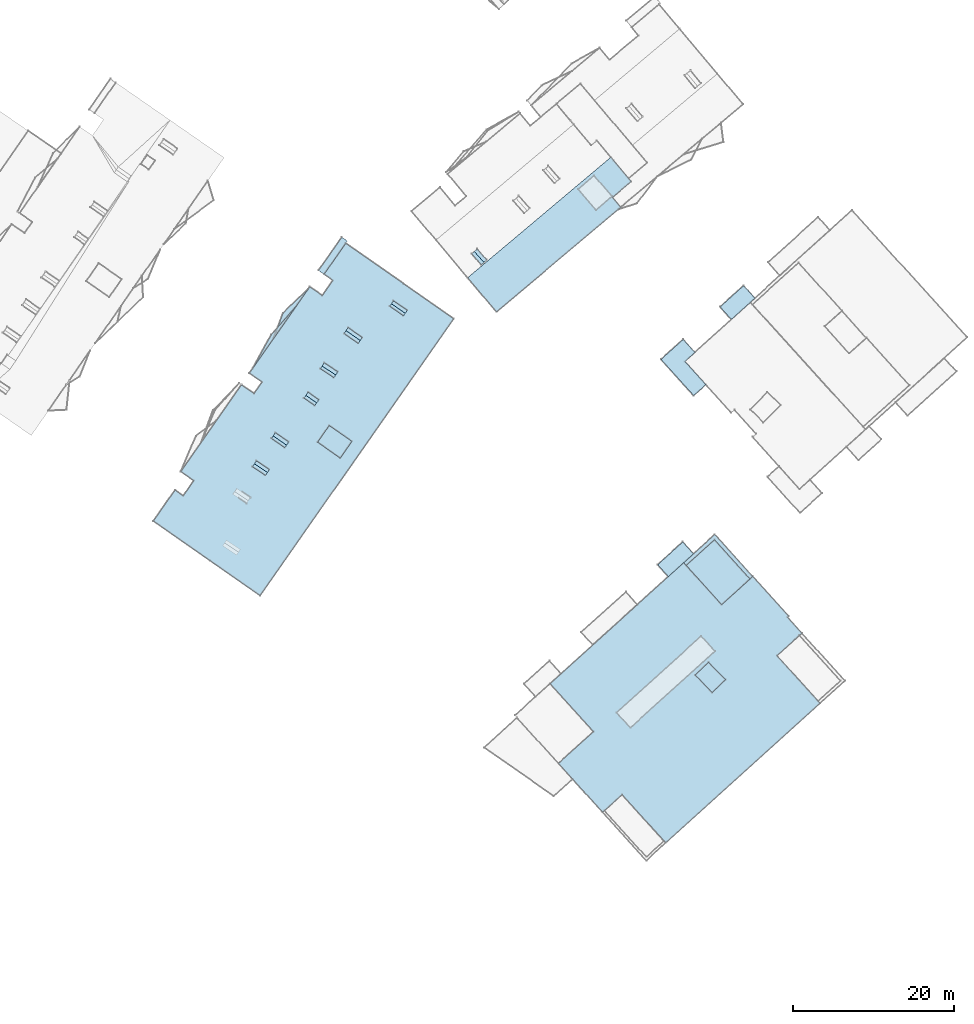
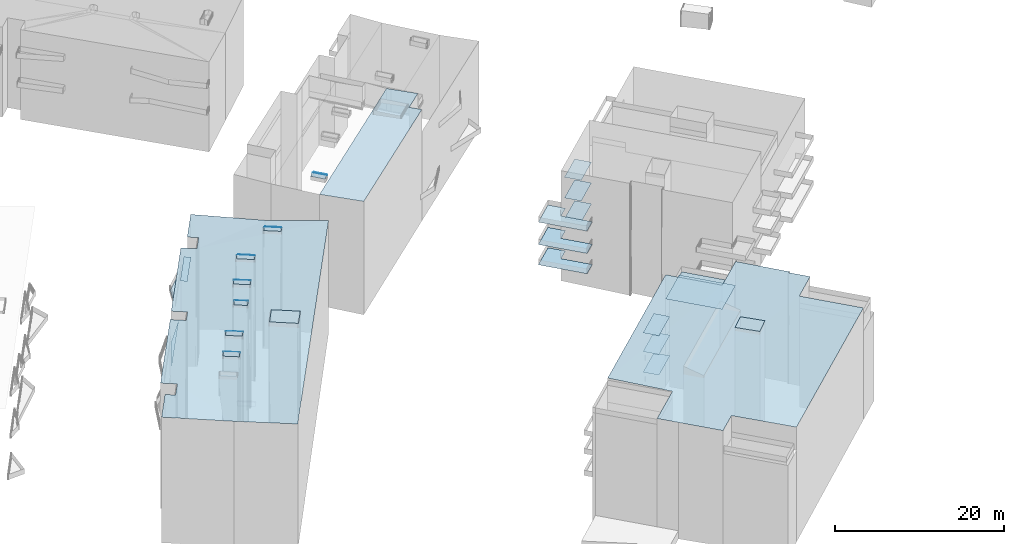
# Not in any storey, part 126 of 136: 66 roofs.
"""IFC4 building model written with IfcOpenShell, lengths in metres."""

from ifc_helpers import new_model, entity, si_unit, converted_unit, frame, origin, place, context, subcontext, project, spatial, face_set, surface_model, element, save


model = new_model("IFC4")

# Units and contexts
model_context = context("Model", 3, precision=1e-05, world=origin())
body_context = subcontext(model_context, "Body", "Model", "MODEL_VIEW")
ifc_project = project(units=[converted_unit("PLANEANGLEUNIT", "DEGREE", entity("IfcRatioMeasure", 0.0174532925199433), si_unit("PLANEANGLEUNIT", "RADIAN"), dimensions=[0, 0, 0, 0, 0, 0, 0]), si_unit("AREAUNIT", "SQUARE_METRE"), si_unit("LENGTHUNIT", "METRE")], contexts=[model_context])

# Site, building
site_placement = place(None, origin())
site = spatial("IfcSite", under=ifc_project, at=site_placement, Name="_site")
building_1_placement = place(site_placement, origin())
building_1 = spatial("IfcBuilding", under=site, at=building_1_placement, Name="_building")

# Roofs
for number, where, name in (
    (1, (0.0, 0.0, 0.0), "Roof"),
    (2, (0.0, 0.0, 0.0), "Roof"),
):
    element("IfcRoof", number, at=place(building_1_placement, frame(where)), inside=building_1, Name=name, PredefinedType="NOTDEFINED", context=body_context, shape_type="SurfaceModel", body=[
        surface_model("IfcFaceBasedSurfaceModel", [(16.8, 35.07, 54.65), (17.07, 35.46, 54.38), (15.73, 36.39, 54.38), (15.46, 36.0, 54.65)], [face_set([[[0, 1, 2, 3]]])]),
    ])
for number, where, name in (
    (3, (0.0, 0.0, 0.0), "Roof"),
    (4, (0.0, 0.0, 0.0), "Roof"),
):
    element("IfcRoof", number, at=place(building_1_placement, frame(where)), inside=building_1, Name=name, PredefinedType="NOTDEFINED", context=body_context, shape_type="SurfaceModel", body=[
        surface_model("IfcFaceBasedSurfaceModel", [(27.83, 46.23, 54.62), (28.09, 46.601, 54.45), (26.37, 47.78, 54.45), (26.12, 47.41, 54.62)], [face_set([[[0, 1, 2, 3]]])]),
    ])
for number, where, name in (
    (5, (0.0, 0.0, 0.0), "Roof"),
    (6, (0.0, 0.0, 0.0), "Roof"),
):
    element("IfcRoof", number, at=place(building_1_placement, frame(where)), inside=building_1, Name=name, PredefinedType="NOTDEFINED", context=body_context, shape_type="SurfaceModel", body=[
        surface_model("IfcFaceBasedSurfaceModel", [(9.75, 11.04, 53.93), (33.88, 45.53, 54.01), (27.68, 49.87, 53.61), (20.43, 54.94, 53.93), (17.73, 51.08, 53.93), (18.83, 50.311, 53.93), (17.51, 48.43, 53.93), (15.95, 49.521, 53.93), (8.42, 38.76, 53.93), (10.0, 37.65, 53.93), (9.0, 36.22, 53.93), (7.44, 37.311, 53.93), (-0.12, 26.5, 53.93), (1.5, 25.37, 53.93), (0.19, 23.48, 53.93), (-0.84, 24.2, 53.93), (-3.54, 20.34, 53.93), (3.55, 15.38, 53.85)], [face_set([[[0, 1, 2, 3, 4, 5, 6, 7, 8, 9, 10, 11, 12, 13, 14, 15, 16, 17]]])]),
    ])
for number, where, name in (
    (7, (0.0, 0.0, 0.0), "Roof"),
    (8, (0.0, 0.0, 0.0), "Roof"),
):
    element("IfcRoof", number, at=place(building_1_placement, frame(where)), inside=building_1, Name=name, PredefinedType="NOTDEFINED", context=body_context, shape_type="SurfaceModel", body=[
        surface_model("IfcFaceBasedSurfaceModel", [(22.22, 42.84, 54.61), (22.48, 43.21, 54.41), (20.72, 44.44, 54.41), (20.46, 44.07, 54.61)], [face_set([[[0, 1, 2, 3]]])]),
    ])
for number, where, name in (
    (9, (0.0, 0.0, 0.0), "Roof"),
    (10, (0.0, 0.0, 0.0), "Roof"),
):
    element("IfcRoof", number, at=place(building_1_placement, frame(where)), inside=building_1, Name=name, PredefinedType="NOTDEFINED", context=body_context, shape_type="SurfaceModel", body=[
        surface_model("IfcFaceBasedSurfaceModel", [(19.17, 38.54, 54.69), (19.44, 38.94, 54.42), (17.75, 40.05, 54.42), (17.49, 39.65, 54.69)], [face_set([[[0, 1, 2, 3]]])]),
    ])
for number, where, name in (
    (11, (0.0, 0.0, 0.0), "Roof"),
    (12, (0.0, 0.0, 0.0), "Roof"),
):
    element("IfcRoof", number, at=place(building_1_placement, frame(where)), inside=building_1, Name=name, PredefinedType="NOTDEFINED", context=body_context, shape_type="SurfaceModel", body=[
        surface_model("IfcFaceBasedSurfaceModel", [(13.05, 29.8, 54.72), (13.33, 30.2, 54.41), (11.67, 31.351, 54.41), (11.39, 30.95, 54.72)], [face_set([[[0, 1, 2, 3]]])]),
    ])
for number, where, name in (
    (13, (0.0, 0.0, 0.0), "Roof"),
    (14, (0.0, 0.0, 0.0), "Roof"),
):
    element("IfcRoof", number, at=place(building_1_placement, frame(where)), inside=building_1, Name=name, PredefinedType="NOTDEFINED", context=body_context, shape_type="SurfaceModel", body=[
        surface_model("IfcFaceBasedSurfaceModel", [(10.67, 26.39, 54.68), (10.92, 26.75, 54.34), (9.3, 27.851, 54.34), (9.05, 27.48, 54.68)], [face_set([[[0, 1, 2, 3]]])]),
    ])
roof_1_placement = place(building_1_placement, origin())
element("IfcRoof", 15, at=roof_1_placement, inside=building_1, Name="Roof", PredefinedType="NOTDEFINED", context=body_context, shape_type="SurfaceModel", body=[
    surface_model("IfcFaceBasedSurfaceModel", [(19.17, 38.54, 54.69), (17.49, 39.65, 54.69), (17.27, 39.32, 54.42), (18.95, 38.2, 54.42)], [face_set([[[0, 1, 2, 3]]])]),
])
for number, where, name in (
    (16, (0.0, 0.0, 0.0), "Roof"),
    (17, (0.0, 0.0, 0.0), "Roof"),
):
    element("IfcRoof", number, at=place(building_1_placement, frame(where)), inside=building_1, Name=name, PredefinedType="NOTDEFINED", context=body_context, shape_type="SurfaceModel", body=[
        surface_model("IfcFaceBasedSurfaceModel", [(27.83, 46.23, 54.62), (26.12, 47.41, 54.62), (25.9, 47.09, 54.43), (27.61, 45.91, 54.43)], [face_set([[[0, 1, 2, 3]]])]),
    ])
roof_2_placement = place(building_1_placement, origin())
element("IfcRoof", 18, at=roof_2_placement, inside=building_1, Name="Roof", PredefinedType="NOTDEFINED", context=body_context, shape_type="SurfaceModel", body=[
    surface_model("IfcFaceBasedSurfaceModel", [(22.22, 42.84, 54.61), (20.46, 44.07, 54.61), (20.21, 43.7, 54.4), (21.97, 42.47, 54.4)], [face_set([[[0, 1, 2, 3]]])]),
])
roof_3_placement = place(building_1_placement, origin())
element("IfcRoof", 19, at=roof_3_placement, inside=building_1, Name="Roof", PredefinedType="NOTDEFINED", context=body_context, shape_type="SurfaceModel", body=[
    surface_model("IfcFaceBasedSurfaceModel", [(16.8, 35.07, 54.65), (15.46, 36.0, 54.65), (15.22, 35.66, 54.34), (16.56, 34.73, 54.34)], [face_set([[[0, 1, 2, 3]]])]),
])
for number, where, name in (
    (20, (0.0, 0.0, 0.0), "Roof"),
    (21, (0.0, 0.0, 0.0), "Roof"),
):
    element("IfcRoof", number, at=place(building_1_placement, frame(where)), inside=building_1, Name=name, PredefinedType="NOTDEFINED", context=body_context, shape_type="SurfaceModel", body=[
        surface_model("IfcFaceBasedSurfaceModel", [(13.05, 29.8, 54.72), (11.39, 30.95, 54.72), (11.17, 30.63, 54.39), (12.83, 29.48, 54.39)], [face_set([[[0, 1, 2, 3]]])]),
    ])
roof_4_placement = place(building_1_placement, origin())
element("IfcRoof", 22, at=roof_4_placement, inside=building_1, Name="Roof", PredefinedType="NOTDEFINED", context=body_context, shape_type="SurfaceModel", body=[
    surface_model("IfcFaceBasedSurfaceModel", [(10.67, 26.39, 54.68), (9.05, 27.48, 54.68), (8.8, 27.11, 54.34), (10.42, 26.021, 54.34)], [face_set([[[0, 1, 2, 3]]])]),
])
for number, where, name in (
    (23, (0.0, 0.0, 0.0), "Roof"),
    (24, (0.0, 0.0, 0.0), "Roof"),
):
    element("IfcRoof", number, at=place(building_1_placement, frame(where)), inside=building_1, Name=name, PredefinedType="NOTDEFINED", context=body_context, shape_type="SurfaceModel", body=[
        surface_model("IfcFaceBasedSurfaceModel", [(19.74, 28.18, 54.61), (21.2, 30.26, 54.61), (18.37, 32.24, 54.61), (16.92, 30.16, 54.61)], [face_set([[[0, 1, 2, 3]]])]),
    ])
roof_5_placement = place(building_1_placement, origin())
element("IfcRoof", 25, at=roof_5_placement, inside=building_1, Name="Roof", PredefinedType="NOTDEFINED", context=body_context, shape_type="SurfaceModel", body=[
    surface_model("IfcFaceBasedSurfaceModel", [(10.67, 26.39, 54.68), (9.05, 27.48, 54.68), (8.8, 27.11, 54.34), (10.42, 26.021, 54.34)], [face_set([[[0, 1, 2, 3]]])]),
])
for number, where, name in (
    (26, (0.0, 0.0, 0.0), "Roof"),
    (27, (0.0, 0.0, 0.0), "Roof"),
):
    element("IfcRoof", number, at=place(building_1_placement, frame(where)), inside=building_1, Name=name, PredefinedType="NOTDEFINED", context=body_context, shape_type="SurfaceModel", body=[
        surface_model("IfcFaceBasedSurfaceModel", [(11.45, 43.09, 50.94), (15.76, 49.25, 50.94), (12.61, 46.26, 50.94)], [face_set([[[0, 1, 2]]])]),
    ])
roof_6_placement = place(building_1_placement, origin())
element("IfcRoof", 28, at=roof_6_placement, inside=building_1, Name="Roof", PredefinedType="NOTDEFINED", context=body_context, shape_type="SurfaceModel", body=[
    surface_model("IfcFaceBasedSurfaceModel", [(22.22, 42.84, 54.61), (20.46, 44.07, 54.61), (20.21, 43.7, 54.4), (21.97, 42.47, 54.4)], [face_set([[[0, 1, 2, 3]]])]),
])
roof_7_placement = place(building_1_placement, origin())
element("IfcRoof", 29, at=roof_7_placement, inside=building_1, Name="Roof", PredefinedType="NOTDEFINED", context=body_context, shape_type="SurfaceModel", body=[
    surface_model("IfcFaceBasedSurfaceModel", [(16.8, 35.07, 54.65), (15.46, 36.0, 54.65), (15.22, 35.66, 54.34), (16.56, 34.73, 54.34)], [face_set([[[0, 1, 2, 3]]])]),
])
for number, where, name in (
    (30, (0.0, 0.0, 0.0), "Roof"),
    (31, (0.0, 0.0, 0.0), "Roof"),
):
    element("IfcRoof", number, at=place(building_1_placement, frame(where)), inside=building_1, Name=name, PredefinedType="NOTDEFINED", context=body_context, shape_type="SurfaceModel", body=[
        surface_model("IfcFaceBasedSurfaceModel", [(17.04, 51.561, 47.51), (17.73, 51.08, 47.51), (20.43, 54.94, 47.51), (20.63, 55.23, 47.51), (19.94, 55.71, 47.51)], [face_set([[[0, 1, 2, 3, 4]]])]),
    ])
for number, where, name in (
    (32, (0.0, 0.0, 0.0), "Roof"),
    (33, (0.0, 0.0, 0.0), "Roof"),
):
    element("IfcRoof", number, at=place(building_1_placement, frame(where)), inside=building_1, Name=name, PredefinedType="NOTDEFINED", context=body_context, shape_type="SurfaceModel", body=[
        surface_model("IfcFaceBasedSurfaceModel", [(11.17, 43.58, 45.44), (8.82, 39.33, 45.44), (14.4, 47.3, 45.44)], [face_set([[[0, 1, 2]]])]),
    ])
roof_8_placement = place(building_1_placement, origin())
element("IfcRoof", 34, at=roof_8_placement, inside=building_1, Name="Roof", PredefinedType="NOTDEFINED", context=body_context, shape_type="SurfaceModel", body=[
    surface_model("IfcFaceBasedSurfaceModel", [(19.17, 38.54, 54.69), (17.49, 39.65, 54.69), (17.27, 39.32, 54.42), (18.95, 38.2, 54.42)], [face_set([[[0, 1, 2, 3]]])]),
])

# Building
building_2_placement = place(site_placement, origin())
building_2 = spatial("IfcBuilding", under=site, at=building_2_placement, Name="_building")

# Roofs
roof_9_placement = place(building_2_placement, origin())
element("IfcRoof", 35, at=roof_9_placement, inside=building_2, Name="Roof", PredefinedType="NOTDEFINED", context=body_context, shape_type="SurfaceModel", body=[
    surface_model("IfcFaceBasedSurfaceModel", [(37.64, 52.561, 54.94), (36.44, 53.92, 54.94), (36.12, 53.64, 54.74), (37.32, 52.271, 54.74)], [face_set([[[0, 1, 2, 3]]])]),
])
for number, where, name in (
    (36, (0.0, 0.0, 0.0), "Roof"),
    (37, (0.0, 0.0, 0.0), "Roof"),
):
    element("IfcRoof", number, at=place(building_2_placement, frame(where)), inside=building_2, Name=name, PredefinedType="NOTDEFINED", context=body_context, shape_type="SurfaceModel", body=[
        surface_model("IfcFaceBasedSurfaceModel", [(37.64, 52.561, 54.94), (38.0, 52.88, 54.79), (36.8, 54.25, 54.79), (36.44, 53.92, 54.94)], [face_set([[[0, 1, 2, 3]]])]),
    ])
roof_10_placement = place(building_2_placement, origin())
element("IfcRoof", 38, at=roof_10_placement, inside=building_2, Name="Roof", PredefinedType="NOTDEFINED", context=body_context, shape_type="SurfaceModel", body=[
    surface_model("IfcFaceBasedSurfaceModel", [(37.64, 52.561, 54.94), (36.44, 53.92, 54.94), (36.12, 53.64, 54.74), (37.32, 52.271, 54.74)], [face_set([[[0, 1, 2, 3]]])]),
])
for number, where, name in (
    (39, (0.0, 0.0, 0.0), "Roof"),
    (40, (0.0, 0.0, 0.0), "Roof"),
):
    element("IfcRoof", number, at=place(building_2_placement, frame(where)), inside=building_2, Name=name, PredefinedType="NOTDEFINED", context=body_context, shape_type="SurfaceModel", body=[
        surface_model("IfcFaceBasedSurfaceModel", [(35.62, 50.67, 54.1), (39.21, 46.4, 54.41), (54.7, 59.43, 54.41), (53.66, 60.67, 54.32), (56.01, 62.64, 54.32), (53.832, 65.231, 54.132), (53.458, 65.678, 54.1)], [face_set([[[0, 1, 2, 3, 4, 5, 6]]])]),
    ])

# Building
building_3_placement = place(site_placement, origin())
building_3 = spatial("IfcBuilding", under=site, at=building_3_placement, Name="_building")

# Roofs
for number, where, name in (
    (41, (0.0, 0.0, 0.0), "Roof"),
    (42, (0.0, 0.0, 0.0), "Roof"),
):
    element("IfcRoof", number, at=place(building_3_placement, frame(where)), inside=building_3, Name=name, PredefinedType="NOTDEFINED", context=body_context, shape_type="SurfaceModel", body=[
        surface_model("IfcFaceBasedSurfaceModel", [(68.47, 45.46, 47.79), (71.4, 48.11, 47.79), (69.99, 49.67, 47.79), (67.06, 47.021, 47.79)], [face_set([[[0, 1, 2, 3]]])]),
    ])
for number, where, name in (
    (43, (0.0, 0.0, 0.0), "Roof"),
    (44, (0.0, 0.0, 0.0), "Roof"),
):
    element("IfcRoof", number, at=place(building_3_placement, frame(where)), inside=building_3, Name=name, PredefinedType="NOTDEFINED", context=body_context, shape_type="SurfaceModel", body=[
        surface_model("IfcFaceBasedSurfaceModel", [(63.93, 41.351, 41.65), (62.46, 42.97, 41.65), (59.7, 40.48, 41.65), (63.78, 35.98, 41.65), (65.29, 37.34, 41.65), (62.68, 40.22, 41.65)], [face_set([[[0, 1, 2, 3, 4, 5]]])]),
    ])
for number, where, name in (
    (45, (0.0, 0.0, 0.0), "Roof"),
    (46, (0.0, 0.0, 0.0), "Roof"),
):
    element("IfcRoof", number, at=place(building_3_placement, frame(where)), inside=building_3, Name=name, PredefinedType="NOTDEFINED", context=body_context, shape_type="SurfaceModel", body=[
        surface_model("IfcFaceBasedSurfaceModel", [(63.93, 41.351, 44.59), (62.46, 42.97, 44.59), (59.7, 40.48, 44.59), (63.78, 35.98, 44.59), (65.29, 37.34, 44.59), (62.68, 40.22, 44.59)], [face_set([[[0, 1, 2, 3, 4, 5]]])]),
    ])
for number, where, name in (
    (47, (0.0, 0.0, 0.0), "Roof"),
    (48, (0.0, 0.0, 0.0), "Roof"),
):
    element("IfcRoof", number, at=place(building_3_placement, frame(where)), inside=building_3, Name=name, PredefinedType="NOTDEFINED", context=body_context, shape_type="SurfaceModel", body=[
        surface_model("IfcFaceBasedSurfaceModel", [(68.47, 45.46, 44.79), (71.4, 48.11, 44.79), (69.99, 49.67, 44.79), (67.06, 47.021, 44.79)], [face_set([[[0, 1, 2, 3]]])]),
    ])
for number, where, name in (
    (49, (0.0, 0.0, 0.0), "Roof"),
    (50, (0.0, 0.0, 0.0), "Roof"),
):
    element("IfcRoof", number, at=place(building_3_placement, frame(where)), inside=building_3, Name=name, PredefinedType="NOTDEFINED", context=body_context, shape_type="SurfaceModel", body=[
        surface_model("IfcFaceBasedSurfaceModel", [(63.93, 41.351, 47.83), (62.46, 42.97, 47.83), (59.7, 40.48, 47.83), (63.78, 35.98, 47.83), (65.29, 37.34, 47.83), (62.68, 40.22, 47.83)], [face_set([[[0, 1, 2, 3, 4, 5]]])]),
    ])
for number, where, name in (
    (51, (0.0, 0.0, 0.0), "Roof"),
    (52, (0.0, 0.0, 0.0), "Roof"),
):
    element("IfcRoof", number, at=place(building_3_placement, frame(where)), inside=building_3, Name=name, PredefinedType="NOTDEFINED", context=body_context, shape_type="SurfaceModel", body=[
        surface_model("IfcFaceBasedSurfaceModel", [(68.47, 45.46, 41.76), (71.4, 48.11, 41.76), (69.99, 49.67, 41.76), (67.06, 47.021, 41.76)], [face_set([[[0, 1, 2, 3]]])]),
    ])

# Building
building_4_placement = place(site_placement, origin())
building_4 = spatial("IfcBuilding", under=site, at=building_4_placement, Name="_building")

# Roofs
for number, where, name in (
    (53, (0.0, 0.0, 0.0), "Roof"),
    (54, (0.0, 0.0, 0.0), "Roof"),
):
    element("IfcRoof", number, at=place(building_4_placement, frame(where)), inside=building_4, Name=name, PredefinedType="NOTDEFINED", context=body_context, shape_type="SurfaceModel", body=[
        surface_model("IfcFaceBasedSurfaceModel", [(60.62, 13.43, 41.74), (63.75, 16.26, 41.74), (62.41, 17.74, 41.74), (59.29, 14.91, 41.74)], [face_set([[[0, 1, 2, 3]]])]),
    ])
for number, where, name in (
    (55, (0.0, 0.0, 0.0), "Roof"),
    (56, (0.0, 0.0, 0.0), "Roof"),
):
    element("IfcRoof", number, at=place(building_4_placement, frame(where)), inside=building_4, Name=name, PredefinedType="NOTDEFINED", context=body_context, shape_type="SurfaceModel", body=[
        surface_model("IfcFaceBasedSurfaceModel", [(65.62, 2.771, 54.92), (63.97, 1.16, 54.92), (66.09, -1.02, 54.92), (67.74, 0.601, 54.92)], [face_set([[[0, 1, 2, 3]]])]),
    ])
roof_11_placement = place(building_4_placement, origin())
element("IfcRoof", 57, at=roof_11_placement, inside=building_4, Name="Roof", PredefinedType="NOTDEFINED", context=body_context, shape_type="SurfaceModel", body=[
    surface_model("IfcFaceBasedSurfaceModel", [(60.62, 13.43, 47.44), (63.75, 16.26, 47.44), (62.41, 17.74, 47.44), (59.29, 14.91, 47.44)], [face_set([[[0, 1, 2, 3]]])]),
])
for number, where, name in (
    (58, (0.0, 0.0, 0.0), "Roof"),
    (59, (0.0, 0.0, 0.0), "Roof"),
):
    element("IfcRoof", number, at=place(building_4_placement, frame(where)), inside=building_4, Name=name, PredefinedType="NOTDEFINED", context=body_context, shape_type="SurfaceModel", body=[
        surface_model("IfcFaceBasedSurfaceModel", [(60.62, 13.43, 44.73), (63.75, 16.26, 44.73), (62.41, 17.74, 44.73), (59.29, 14.91, 44.73)], [face_set([[[0, 1, 2, 3]]])]),
    ])
for number, where, name in (
    (60, (0.0, 0.0, 0.0), "Roof"),
    (61, (0.0, 0.0, 0.0), "Roof"),
):
    element("IfcRoof", number, at=place(building_4_placement, frame(where)), inside=building_4, Name=name, PredefinedType="NOTDEFINED", context=body_context, shape_type="SurfaceModel", body=[
        surface_model("IfcFaceBasedSurfaceModel", [(62.84, 14.82, 51.92), (67.26, 9.93, 51.92), (70.79, 13.13, 51.92), (66.37, 18.021, 51.92)], [face_set([[[0, 1, 2, 3]]])]),
    ])
for number, where, name in (
    (62, (0.0, 0.0, 0.0), "Roof"),
    (63, (0.0, 0.0, 0.0), "Roof"),
):
    element("IfcRoof", number, at=place(building_4_placement, frame(where)), inside=building_4, Name=name, PredefinedType="NOTDEFINED", context=body_context, shape_type="SurfaceModel", body=[
        surface_model("IfcFaceBasedSurfaceModel", [(52.45, -15.93, 54.37), (54.87, -13.74, 54.37), (60.31, -19.74, 54.43), (79.53, -2.34, 54.43), (74.16, 3.58, 54.43), (77.26, 6.38, 54.47), (75.48, 8.34, 54.47), (75.63, 8.48, 54.47), (71.14, 13.44, 54.52), (67.26, 9.93, 54.57), (62.53, 15.16, 54.57), (45.9, 0.09, 54.57), (51.31, -5.88, 54.37), (46.93, -9.84, 54.37), (48.71, -11.81, 54.37)], [face_set([[[0, 1, 2, 3, 4, 5, 6, 7, 8, 9, 10, 11, 12, 13, 14]]])]),
    ])
roof_12_placement = place(building_4_placement, origin())
element("IfcRoof", 64, at=roof_12_placement, inside=building_4, Name="Roof", PredefinedType="NOTDEFINED", context=body_context, shape_type="SurfaceModel", body=[
    surface_model("IfcFaceBasedSurfaceModel", [(60.62, 13.43, 47.44), (63.75, 16.26, 47.44), (62.41, 17.74, 47.44), (59.29, 14.91, 47.44)], [face_set([[[0, 1, 2, 3]]])]),
])
for number, where, name in (
    (65, (0.0, 0.0, 0.0), "Roof"),
    (66, (0.0, 0.0, 0.0), "Roof"),
):
    element("IfcRoof", number, at=place(building_4_placement, frame(where)), inside=building_4, Name=name, PredefinedType="NOTDEFINED", context=body_context, shape_type="SurfaceModel", body=[
        surface_model("IfcFaceBasedSurfaceModel", [(62.53, 15.16, 51.06), (67.26, 9.93, 51.06), (71.14, 13.44, 51.06), (66.41, 18.67, 51.06)], [face_set([[[0, 1, 2, 3]]])]),
    ])

save(model, "model.ifc")
